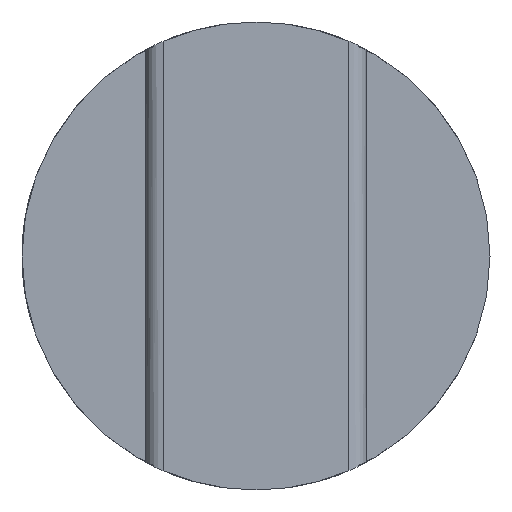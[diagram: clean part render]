
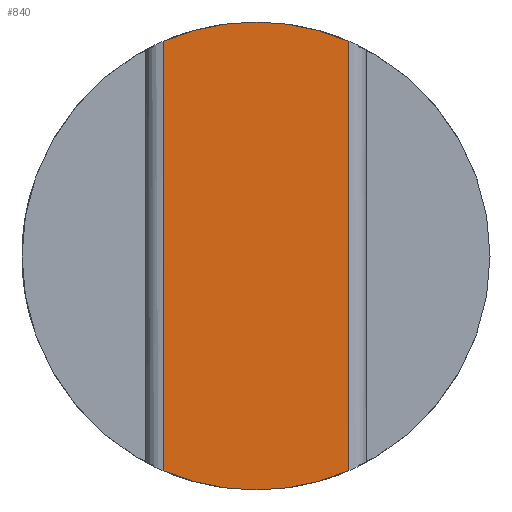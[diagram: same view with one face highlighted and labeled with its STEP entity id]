
A CAD part, left-side view. The second image highlights one B-rep face of the part: STEP entity #840.
In plain terms, the highlighted planar face has unit normal (-1, 0, 0).
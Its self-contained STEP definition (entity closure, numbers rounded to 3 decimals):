
#49 = DIRECTION ( 'NONE',  ( 0., 0., 1. ) ) ;
#142 = CIRCLE ( 'NONE', #1572, 5. ) ;
#262 = EDGE_LOOP ( 'NONE', ( #2053, #853, #2959, #2150, #988, #3498 ) ) ;
#272 = PLANE ( 'NONE',  #2378 ) ;
#364 = DIRECTION ( 'NONE',  ( 1., 0., 0. ) ) ;
#368 = DIRECTION ( 'NONE',  ( 1., 0., 0. ) ) ;
#372 = CIRCLE ( 'NONE', #1089, 5. ) ;
#378 = LINE ( 'NONE', #3041, #872 ) ;
#397 = CARTESIAN_POINT ( 'NONE',  ( 0., -1.986, 4.589 ) ) ;
#463 = DIRECTION ( 'NONE',  ( 0., 0., 1. ) ) ;
#484 = DIRECTION ( 'NONE',  ( 0., 0., 1. ) ) ;
#532 = DIRECTION ( 'NONE',  ( 0., 0., -1. ) ) ;
#546 = CARTESIAN_POINT ( 'NONE',  ( 0., 0., 5. ) ) ;
#601 = EDGE_CURVE ( 'NONE', #940, #3683, #3071, .T. ) ;
#687 = EDGE_CURVE ( 'NONE', #3683, #1713, #142, .T. ) ;
#817 = CARTESIAN_POINT ( 'NONE',  ( 0., -1.986, 0. ) ) ;
#840 = ADVANCED_FACE ( 'NONE', ( #2548 ), #272, .F. ) ;
#853 = ORIENTED_EDGE ( 'NONE', *, *, #899, .F. ) ;
#872 = VECTOR ( 'NONE', #463, 1000. ) ;
#880 = VERTEX_POINT ( 'NONE', #546 ) ;
#899 = EDGE_CURVE ( 'NONE', #2927, #2389, #378, .T. ) ;
#940 = VERTEX_POINT ( 'NONE', #397 ) ;
#981 = CARTESIAN_POINT ( 'NONE',  ( 0., 0., 0. ) ) ;
#988 = ORIENTED_EDGE ( 'NONE', *, *, #601, .F. ) ;
#1089 = AXIS2_PLACEMENT_3D ( 'NONE', #1608, #2758, #484 ) ;
#1097 = CARTESIAN_POINT ( 'NONE',  ( 0., 0., 0. ) ) ;
#1512 = DIRECTION ( 'NONE',  ( 0., 0., 1. ) ) ;
#1545 = CARTESIAN_POINT ( 'NONE',  ( 0., 0., -5. ) ) ;
#1572 = AXIS2_PLACEMENT_3D ( 'NONE', #1097, #3388, #49 ) ;
#1608 = CARTESIAN_POINT ( 'NONE',  ( 0., 0., 0. ) ) ;
#1713 = VERTEX_POINT ( 'NONE', #1545 ) ;
#2018 = DIRECTION ( 'NONE',  ( 0., 0., 1. ) ) ;
#2053 = ORIENTED_EDGE ( 'NONE', *, *, #2763, .F. ) ;
#2150 = ORIENTED_EDGE ( 'NONE', *, *, #687, .F. ) ;
#2155 = EDGE_CURVE ( 'NONE', #880, #940, #2899, .T. ) ;
#2199 = CARTESIAN_POINT ( 'NONE',  ( 0., -1.986, -4.589 ) ) ;
#2378 = AXIS2_PLACEMENT_3D ( 'NONE', #2781, #2566, #3119 ) ;
#2389 = VERTEX_POINT ( 'NONE', #3636 ) ;
#2430 = VECTOR ( 'NONE', #532, 1000. ) ;
#2478 = CIRCLE ( 'NONE', #3302, 5. ) ;
#2548 = FACE_OUTER_BOUND ( 'NONE', #262, .T. ) ;
#2566 = DIRECTION ( 'NONE',  ( 1., 0., 0. ) ) ;
#2758 = DIRECTION ( 'NONE',  ( 1., 0., 0. ) ) ;
#2763 = EDGE_CURVE ( 'NONE', #2389, #880, #372, .T. ) ;
#2781 = CARTESIAN_POINT ( 'NONE',  ( 0., 0., 0. ) ) ;
#2837 = AXIS2_PLACEMENT_3D ( 'NONE', #3113, #364, #2018 ) ;
#2899 = CIRCLE ( 'NONE', #2837, 5. ) ;
#2927 = VERTEX_POINT ( 'NONE', #3214 ) ;
#2959 = ORIENTED_EDGE ( 'NONE', *, *, #3570, .F. ) ;
#3041 = CARTESIAN_POINT ( 'NONE',  ( 0., 1.986, 0. ) ) ;
#3071 = LINE ( 'NONE', #817, #2430 ) ;
#3113 = CARTESIAN_POINT ( 'NONE',  ( 0., 0., 0. ) ) ;
#3119 = DIRECTION ( 'NONE',  ( 0., 0., -1. ) ) ;
#3214 = CARTESIAN_POINT ( 'NONE',  ( 0., 1.986, -4.589 ) ) ;
#3302 = AXIS2_PLACEMENT_3D ( 'NONE', #981, #368, #1512 ) ;
#3388 = DIRECTION ( 'NONE',  ( 1., 0., 0. ) ) ;
#3498 = ORIENTED_EDGE ( 'NONE', *, *, #2155, .F. ) ;
#3570 = EDGE_CURVE ( 'NONE', #1713, #2927, #2478, .T. ) ;
#3636 = CARTESIAN_POINT ( 'NONE',  ( 0., 1.986, 4.589 ) ) ;
#3683 = VERTEX_POINT ( 'NONE', #2199 ) ;
